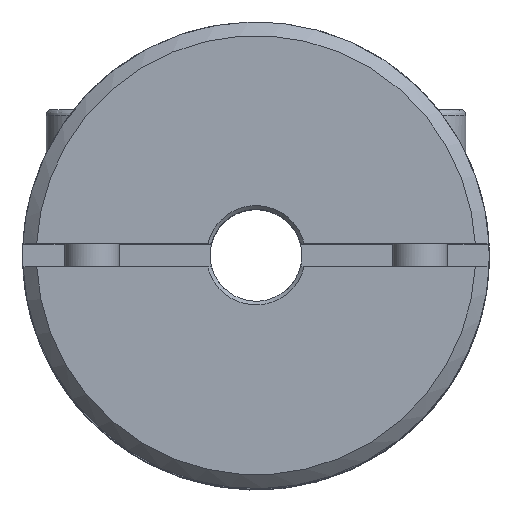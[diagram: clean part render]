
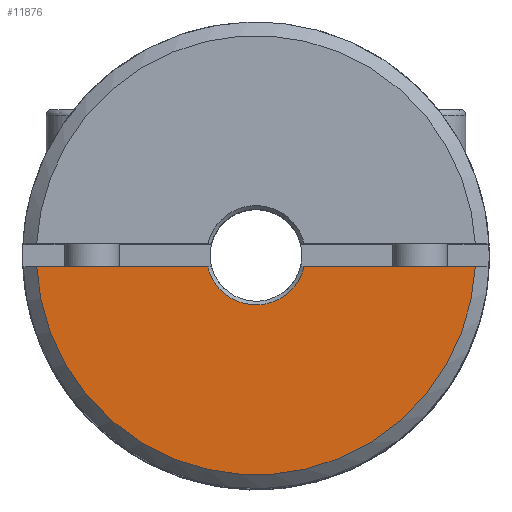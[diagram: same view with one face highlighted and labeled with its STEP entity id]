
A CAD part, top view. The second image highlights one B-rep face of the part: STEP entity #11876.
In plain terms, the highlighted free-form (B-spline) face has degree [3, 3] with [4, 4] control points.
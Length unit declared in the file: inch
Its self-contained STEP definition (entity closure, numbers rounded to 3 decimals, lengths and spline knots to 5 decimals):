
#3663=CARTESIAN_POINT('',(0.93966,-0.04921,
1.87648));
#3691=CARTESIAN_POINT('',(-0.93966,-0.04921,
1.87648));
#3698=DIRECTION('',(-1.,0.,0.));
#3699=VECTOR('',#3698,0.73283);
#3700=CARTESIAN_POINT('',(0.93966,-0.04921,
1.87648));
#3701=LINE('',#3700,#3699);
#3702=CARTESIAN_POINT('',(-0.93966,-0.04921,
1.87648));
#3703=CARTESIAN_POINT('',(-0.93683,-0.10315,
1.87648));
#3704=CARTESIAN_POINT('',(-0.92165,-0.21431,
1.87648));
#3705=CARTESIAN_POINT('',(-0.86576,-0.38319,
1.87648));
#3706=CARTESIAN_POINT('',(-0.77506,-0.54436,
1.87648));
#3707=CARTESIAN_POINT('',(-0.65188,-0.68726,
1.87648));
#3708=CARTESIAN_POINT('',(-0.5027,-0.8027,
1.87648));
#3709=CARTESIAN_POINT('',(-0.36468,-0.87105,
1.87648));
#3710=CARTESIAN_POINT('',(-0.25133,-0.90819,
1.87648));
#3711=CARTESIAN_POINT('',(-0.16611,-0.9275,
1.87648));
#3712=CARTESIAN_POINT('',(-0.09591,-0.93677,
1.87648));
#3713=CARTESIAN_POINT('',(-0.04066,-0.94036,
1.87648));
#3714=CARTESIAN_POINT('',(0.,-0.94123,1.87648));
#3715=CARTESIAN_POINT('',(0.04066,-0.94036,
1.87648));
#3716=CARTESIAN_POINT('',(0.09591,-0.93677,
1.87648));
#3717=CARTESIAN_POINT('',(0.16611,-0.9275,
1.87648));
#3718=CARTESIAN_POINT('',(0.25133,-0.90819,
1.87648));
#3719=CARTESIAN_POINT('',(0.36468,-0.87105,
1.87648));
#3720=CARTESIAN_POINT('',(0.5027,-0.8027,
1.87648));
#3721=CARTESIAN_POINT('',(0.65188,-0.68726,
1.87648));
#3722=CARTESIAN_POINT('',(0.77506,-0.54436,
1.87648));
#3723=CARTESIAN_POINT('',(0.86576,-0.38319,
1.87648));
#3724=CARTESIAN_POINT('',(0.92165,-0.21431,
1.87648));
#3725=CARTESIAN_POINT('',(0.93683,-0.10315,
1.87648));
#3726=CARTESIAN_POINT('',(0.93966,-0.04921,
1.87648));
#3728=DIRECTION('',(-1.,0.,0.));
#3729=VECTOR('',#3728,0.73283);
#3730=CARTESIAN_POINT('',(-0.20682,-0.04921,
1.87648));
#3731=LINE('',#3730,#3729);
#3732=CARTESIAN_POINT('',(0.20682,-0.04921,
1.87648));
#3733=CARTESIAN_POINT('',(0.20174,-0.07058,
1.87648));
#3734=CARTESIAN_POINT('',(0.18422,-0.11418,
1.87648));
#3735=CARTESIAN_POINT('',(0.1428,-0.1609,
1.87648));
#3736=CARTESIAN_POINT('',(0.10148,-0.18802,
1.87648));
#3737=CARTESIAN_POINT('',(0.06797,-0.20251,
1.87648));
#3738=CARTESIAN_POINT('',(0.0393,-0.20949,
1.87648));
#3739=CARTESIAN_POINT('',(0.0166,-0.21217,
1.87648));
#3740=CARTESIAN_POINT('',(0.,-0.21281,1.87648));
#3741=CARTESIAN_POINT('',(-0.0166,-0.21217,
1.87648));
#3742=CARTESIAN_POINT('',(-0.0393,-0.20949,
1.87648));
#3743=CARTESIAN_POINT('',(-0.06797,-0.20251,
1.87648));
#3744=CARTESIAN_POINT('',(-0.10148,-0.18802,
1.87648));
#3745=CARTESIAN_POINT('',(-0.1428,-0.1609,
1.87648));
#3746=CARTESIAN_POINT('',(-0.18422,-0.11418,
1.87648));
#3747=CARTESIAN_POINT('',(-0.20174,-0.07058,
1.87648));
#3748=CARTESIAN_POINT('',(-0.20682,-0.04921,
1.87648));
#3750=CARTESIAN_POINT('',(0.20682,-0.04921,
1.87648));
#5374=VERTEX_POINT('',#3691);
#5376=CARTESIAN_POINT('',(-0.20682,-0.04921,
1.87648));
#5377=VERTEX_POINT('',#5376);
#5382=VERTEX_POINT('',#3663);
#5389=VERTEX_POINT('',#3750);
#11852=CARTESIAN_POINT('',(-0.97724,-0.95878,
1.87648));
#11853=CARTESIAN_POINT('',(-0.97724,-0.64965,
1.87648));
#11854=CARTESIAN_POINT('',(-0.97724,-0.34051,
1.87648));
#11855=CARTESIAN_POINT('',(-0.97724,-0.03138,
1.87648));
#11856=CARTESIAN_POINT('',(-0.32575,-0.95878,
1.87648));
#11857=CARTESIAN_POINT('',(-0.32575,-0.64965,
1.87648));
#11858=CARTESIAN_POINT('',(-0.32575,-0.34051,
1.87648));
#11859=CARTESIAN_POINT('',(-0.32575,-0.03138,
1.87648));
#11860=CARTESIAN_POINT('',(0.32575,-0.95878,
1.87648));
#11861=CARTESIAN_POINT('',(0.32575,-0.64965,
1.87648));
#11862=CARTESIAN_POINT('',(0.32575,-0.34051,
1.87648));
#11863=CARTESIAN_POINT('',(0.32575,-0.03138,
1.87648));
#11864=CARTESIAN_POINT('',(0.97724,-0.95878,
1.87648));
#11865=CARTESIAN_POINT('',(0.97724,-0.64965,
1.87648));
#11866=CARTESIAN_POINT('',(0.97724,-0.34051,
1.87648));
#11867=CARTESIAN_POINT('',(0.97724,-0.03138,
1.87648));
#11868=B_SPLINE_SURFACE_WITH_KNOTS('',3,3,((#11852,#11853,#11854,#11855),
(#11856,#11857,#11858,#11859),(#11860,#11861,#11862,#11863),(#11864,#11865,
#11866,#11867)),.UNSPECIFIED.,.F.,.F.,.F.,(4,4),(4,4),(-2.4822,
2.4822),(-2.4353,-0.0797),.UNSPECIFIED.);
#11869=ORIENTED_EDGE('',*,*,#11798,.F.);
#11870=ORIENTED_EDGE('',*,*,#11840,.F.);
#11871=ORIENTED_EDGE('',*,*,#11691,.F.);
#11873=ORIENTED_EDGE('',*,*,#11872,.F.);
#11874=EDGE_LOOP('',(#11869,#11870,#11871,#11873));
#11875=FACE_OUTER_BOUND('',#11874,.F.);
#3727=B_SPLINE_CURVE_WITH_KNOTS('',3,(#3702,#3703,#3704,#3705,#3706,#3707,#3708,
#3709,#3710,#3711,#3712,#3713,#3714,#3715,#3716,#3717,#3718,#3719,#3720,#3721,
#3722,#3723,#3724,#3725,#3726),.UNSPECIFIED.,.F.,.F.,(4,1,1,1,1,1,1,1,1,1,1,1,1,
1,1,1,1,1,1,1,1,1,4),(0.,0.0625,0.125,0.1875,0.25,0.3125,0.375,
0.40625,0.4375,0.46875,0.48438,0.5,0.51563,0.53125,0.5625,
0.59375,0.625,0.6875,0.75,0.8125,0.875,0.9375,1.),
.UNSPECIFIED.);
#3749=B_SPLINE_CURVE_WITH_KNOTS('',3,(#3732,#3733,#3734,#3735,#3736,#3737,#3738,
#3739,#3740,#3741,#3742,#3743,#3744,#3745,#3746,#3747,#3748),.UNSPECIFIED.,.F.,
.F.,(4,1,1,1,1,1,1,1,1,1,1,1,1,1,4),(0.,0.125,0.25,0.3125,0.375,
0.4375,0.46875,0.5,0.53125,0.5625,0.625,0.6875,0.75,0.875,
1.),.UNSPECIFIED.);
#11691=EDGE_CURVE('',#5377,#5374,#3731,.T.);
#11798=EDGE_CURVE('',#5382,#5389,#3701,.T.);
#11840=EDGE_CURVE('',#5374,#5382,#3727,.T.);
#11872=EDGE_CURVE('',#5389,#5377,#3749,.T.);
#11876=ADVANCED_FACE('',(#11875),#11868,.T.);
